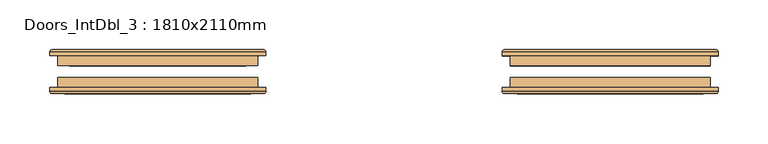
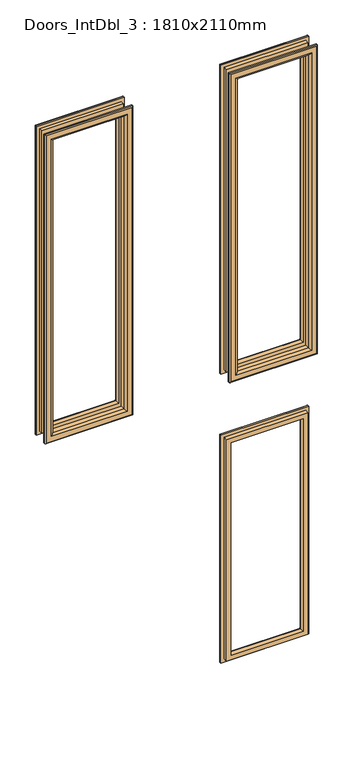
"""IFC4 building model written with IfcOpenShell, lengths in millimetres: door geometry, Doors_IntDbl_3 : 1810x2110mm."""

from ifc_helpers import new_model, si_unit, frame, origin, place, context, project, spatial, ellipse_curve, source, transform, mapped, element, save
from ifc_brep_helpers import plane_surface, cylinder_surface, advanced_brep


def doors_intdbl_3_1810x2110mm_1437e5d7(model_context):
    return source(origin(), model_context, "Body", "AdvancedBrep", [
        advanced_brep(
        [(118.5, 79.0, 342.0), (118.5, 75.0, 342.0), (118.5, 75.0, 933.0), (118.5, 79.0, 933.0), (120.5, 81.0, 344.0), (120.5, 81.0, 931.0), (138.5, 76.0, 362.0), (133.5, 81.0, 357.0), (133.5, 81.0, 918.0), (138.5, 76.0, 913.0), (138.5, 65.0, 362.0), (138.5, 65.0, 913.0), (126.5, 75.0, 350.0), (126.5, 65.0, 350.0), (126.5, 65.0, 925.0), (126.5, 75.0, 925.0), (334.5, 75.0, 933.0), (334.5, 79.0, 933.0), (332.5, 81.0, 931.0), (319.5, 81.0, 918.0), (314.5, 76.0, 913.0), (314.5, 65.0, 913.0), (326.5, 65.0, 925.0), (326.5, 75.0, 925.0), (334.5, 75.0, 342.0), (334.5, 79.0, 342.0), (332.5, 81.0, 344.0), (319.5, 81.0, 357.0), (314.5, 76.0, 362.0), (314.5, 65.0, 362.0), (326.5, 65.0, 350.0), (326.5, 75.0, 350.0)],
        [
            (0, 1),
            (1, 2),
            (2, 3),
            (3, 0),
            (4, 0, ellipse_curve(frame((120.5, 79.0, 344.0), z_axis=(-0.7071067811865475, 0.0, 0.7071067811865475), x_axis=(-0.7071067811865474, 0.0, -0.7071067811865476)), 2.8284271, 2.0)),
            (3, 5, ellipse_curve(frame((120.5, 79.0, 931.0), z_axis=(-0.7071067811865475, 0.0, -0.7071067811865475), x_axis=(0.7071067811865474, 0.0, -0.7071067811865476)), 2.8284271, 2.0)),
            (5, 4),
            (6, 7, ellipse_curve(frame((133.5, 76.0, 357.0), z_axis=(-0.7071067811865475, 0.0, 0.7071067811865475), x_axis=(-0.7071067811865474, 0.0, -0.7071067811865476)), 7.0710678, 5.0)),
            (7, 8),
            (8, 9, ellipse_curve(frame((133.5, 76.0, 918.0), z_axis=(-0.7071067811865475, 0.0, -0.7071067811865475), x_axis=(0.7071067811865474, 0.0, -0.7071067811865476)), 7.0710678, 5.0)),
            (9, 6),
            (10, 6),
            (9, 11),
            (11, 10),
            (12, 13),
            (13, 14),
            (14, 15),
            (15, 12),
            (2, 16),
            (16, 17),
            (17, 3),
            (17, 18, ellipse_curve(frame((332.5, 79.0, 931.0), z_axis=(-0.7071067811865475, 0.0, 0.7071067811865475), x_axis=(-0.7071067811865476, 0.0, -0.7071067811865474)), 2.8284271, 2.0)),
            (18, 5),
            (8, 19),
            (19, 20, ellipse_curve(frame((319.5, 76.0, 918.0), z_axis=(-0.7071067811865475, 0.0, 0.7071067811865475), x_axis=(-0.7071067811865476, 0.0, -0.7071067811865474)), 7.0710678, 5.0)),
            (20, 9),
            (20, 21),
            (21, 11),
            (14, 22),
            (22, 23),
            (23, 15),
            (16, 24),
            (24, 25),
            (25, 17),
            (25, 26, ellipse_curve(frame((332.5, 79.0, 344.0), z_axis=(0.7071067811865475, 0.0, 0.7071067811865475), x_axis=(-0.7071067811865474, 0.0, 0.7071067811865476)), 2.8284271, 2.0)),
            (26, 18),
            (19, 27),
            (27, 28, ellipse_curve(frame((319.5, 76.0, 357.0), z_axis=(0.7071067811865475, 0.0, 0.7071067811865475), x_axis=(-0.7071067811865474, 0.0, 0.7071067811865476)), 7.0710678, 5.0)),
            (28, 20),
            (28, 29),
            (29, 21),
            (22, 30),
            (30, 31),
            (31, 23),
            (24, 1),
            (0, 25),
            (4, 26),
            (7, 27),
            (6, 28),
            (10, 29),
            (13, 30),
            (12, 31),
        ],
        [
            plane_surface(frame((118.5, 75.0, 342.0), z_axis=(-1.0, 0.0, 0.0), x_axis=(0.0, 0.0, 1.0))),
            cylinder_surface(frame((120.5, 79.0, 350.0), z_axis=(0.0, 0.0, -1.0), x_axis=(-1.0, 0.0, 0.0)), 2.0),
            cylinder_surface(frame((133.5, 76.0, 350.0), z_axis=(0.0, 0.0, -1.0), x_axis=(-1.0, 0.0, 0.0)), 5.0),
            plane_surface(frame((138.5, 76.0, 362.0), z_axis=(1.0, 0.0, 0.0), x_axis=(0.0, 0.0, 1.0))),
            plane_surface(frame((126.5, 65.0, 350.0), z_axis=(-1.0, 0.0, 0.0), x_axis=(0.0, 0.0, 1.0))),
            plane_surface(frame((118.5, 75.0, 933.0), z_axis=(0.0, 0.0, 1.0), x_axis=(1.0, 0.0, 0.0))),
            cylinder_surface(frame((126.5, 79.0, 931.0), z_axis=(-1.0, 0.0, 0.0), x_axis=(0.0, 0.0, 1.0)), 2.0),
            cylinder_surface(frame((126.5, 76.0, 918.0), z_axis=(-1.0, 0.0, 0.0), x_axis=(0.0, 0.0, 1.0)), 5.0),
            plane_surface(frame((138.5, 76.0, 913.0), z_axis=(0.0, 0.0, -1.0), x_axis=(1.0, 0.0, 0.0))),
            plane_surface(frame((126.5, 65.0, 925.0), z_axis=(0.0, 0.0, 1.0), x_axis=(1.0, 0.0, 0.0))),
            plane_surface(frame((334.5, 75.0, 933.0), z_axis=(1.0, 0.0, 0.0), x_axis=(0.0, 0.0, -1.0))),
            cylinder_surface(frame((332.5, 79.0, 925.0), z_axis=(0.0, 0.0, 1.0), x_axis=(1.0, 0.0, 0.0)), 2.0),
            cylinder_surface(frame((319.5, 76.0, 925.0), z_axis=(0.0, 0.0, 1.0), x_axis=(1.0, 0.0, 0.0)), 5.0),
            plane_surface(frame((314.5, 76.0, 913.0), z_axis=(-1.0, 0.0, 0.0), x_axis=(0.0, 0.0, -1.0))),
            plane_surface(frame((326.5, 65.0, 925.0), z_axis=(1.0, 0.0, 0.0), x_axis=(0.0, 0.0, -1.0))),
            plane_surface(frame((334.5, 75.0, 342.0), z_axis=(0.0, 0.0, -1.0), x_axis=(-1.0, 0.0, 0.0))),
            cylinder_surface(frame((326.5, 79.0, 344.0), z_axis=(1.0, 0.0, 0.0), x_axis=(0.0, 0.0, -1.0)), 2.0),
            plane_surface(frame((332.5, 81.0, 344.0), z_axis=(0.0, 1.0, 0.0), x_axis=(-1.0, 0.0, 0.0))),
            cylinder_surface(frame((326.5, 76.0, 357.0), z_axis=(1.0, 0.0, 0.0), x_axis=(0.0, 0.0, -1.0)), 5.0),
            plane_surface(frame((314.5, 76.0, 362.0), z_axis=(0.0, 0.0, 1.0), x_axis=(-1.0, 0.0, 0.0))),
            plane_surface(frame((314.5, 65.0, 362.0), z_axis=(0.0, -1.0, 0.0), x_axis=(-1.0, 0.0, 0.0))),
            plane_surface(frame((326.5, 65.0, 350.0), z_axis=(0.0, 0.0, -1.0), x_axis=(-1.0, 0.0, 0.0))),
            plane_surface(frame((326.5, 75.0, 350.0), z_axis=(0.0, -1.0, 0.0), x_axis=(-1.0, 0.0, 0.0))),
        ],
        [
            (0, [[1, 2, 3, 4]]),
            (1, [[5, -4, 6, 7]]),
            (2, [[8, 9, 10, 11]]),
            (3, [[12, -11, 13, 14]]),
            (4, [[15, 16, 17, 18]]),
            (5, [[-3, 19, 20, 21]]),
            (6, [[-6, -21, 22, 23]]),
            (7, [[-10, 24, 25, 26]]),
            (8, [[-13, -26, 27, 28]]),
            (9, [[-17, 29, 30, 31]]),
            (10, [[-20, 32, 33, 34]]),
            (11, [[-22, -34, 35, 36]]),
            (12, [[-25, 37, 38, 39]]),
            (13, [[-27, -39, 40, 41]]),
            (14, [[-30, 42, 43, 44]]),
            (15, [[-33, 45, -1, 46]]),
            (16, [[-35, -46, -5, 47]]),
            (17, [[-23, -36, -47, -7], [48, -37, -24, -9]]),
            (18, [[-38, -48, -8, 49]]),
            (19, [[-40, -49, -12, 50]]),
            (20, [[51, -42, -29, -16], [-28, -41, -50, -14]]),
            (21, [[-43, -51, -15, 52]]),
            (22, [[-45, -32, -19, -2], [-31, -44, -52, -18]]),
        ],
    ),
        advanced_brep(
        [(326.5, 53.0, 1885.0), (326.5, 43.0, 1885.0), (326.5, 43.0, 1100.0), (326.5, 53.0, 1100.0), (314.5, 42.0, 1873.0), (314.5, 53.0, 1873.0), (314.5, 53.0, 1112.0), (314.5, 42.0, 1112.0), (319.5, 37.0, 1878.0), (319.5, 37.0, 1107.0), (334.5, 39.0, 1893.0), (332.5, 37.0, 1891.0), (332.5, 37.0, 1094.0), (334.5, 39.0, 1092.0), (334.5, 43.0, 1893.0), (334.5, 43.0, 1092.0), (126.5, 43.0, 1100.0), (126.5, 53.0, 1100.0), (138.5, 53.0, 1112.0), (138.5, 42.0, 1112.0), (133.5, 37.0, 1107.0), (120.5, 37.0, 1094.0), (118.5, 39.0, 1092.0), (118.5, 43.0, 1092.0), (126.5, 43.0, 1885.0), (126.5, 53.0, 1885.0), (138.5, 53.0, 1873.0), (138.5, 42.0, 1873.0), (133.5, 37.0, 1878.0), (120.5, 37.0, 1891.0), (118.5, 39.0, 1893.0), (118.5, 43.0, 1893.0)],
        [
            (0, 1),
            (1, 2),
            (2, 3),
            (3, 0),
            (4, 5),
            (5, 6),
            (6, 7),
            (7, 4),
            (8, 4, ellipse_curve(frame((319.5, 42.0, 1878.0), z_axis=(0.7071067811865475, 0.0, -0.7071067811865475), x_axis=(0.7071067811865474, 0.0, 0.7071067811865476)), 7.0710678, 5.0)),
            (7, 9, ellipse_curve(frame((319.5, 42.0, 1107.0), z_axis=(0.7071067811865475, 0.0, 0.7071067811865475), x_axis=(-0.7071067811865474, 0.0, 0.7071067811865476)), 7.0710678, 5.0)),
            (9, 8),
            (10, 11, ellipse_curve(frame((332.5, 39.0, 1891.0), z_axis=(0.7071067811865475, 0.0, -0.7071067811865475), x_axis=(0.7071067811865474, 0.0, 0.7071067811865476)), 2.8284271, 2.0)),
            (11, 12),
            (12, 13, ellipse_curve(frame((332.5, 39.0, 1094.0), z_axis=(0.7071067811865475, 0.0, 0.7071067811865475), x_axis=(-0.7071067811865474, 0.0, 0.7071067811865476)), 2.8284271, 2.0)),
            (13, 10),
            (14, 10),
            (13, 15),
            (15, 14),
            (2, 16),
            (16, 17),
            (17, 3),
            (6, 18),
            (18, 19),
            (19, 7),
            (19, 20, ellipse_curve(frame((133.5, 42.0, 1107.0), z_axis=(0.7071067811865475, 0.0, -0.7071067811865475), x_axis=(0.7071067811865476, 0.0, 0.7071067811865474)), 7.0710678, 5.0)),
            (20, 9),
            (12, 21),
            (21, 22, ellipse_curve(frame((120.5, 39.0, 1094.0), z_axis=(0.7071067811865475, 0.0, -0.7071067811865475), x_axis=(0.7071067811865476, 0.0, 0.7071067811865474)), 2.8284271, 2.0)),
            (22, 13),
            (22, 23),
            (23, 15),
            (16, 24),
            (24, 25),
            (25, 17),
            (18, 26),
            (26, 27),
            (27, 19),
            (27, 28, ellipse_curve(frame((133.5, 42.0, 1878.0), z_axis=(-0.7071067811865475, 0.0, -0.7071067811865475), x_axis=(0.7071067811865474, 0.0, -0.7071067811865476)), 7.0710678, 5.0)),
            (28, 20),
            (21, 29),
            (29, 30, ellipse_curve(frame((120.5, 39.0, 1891.0), z_axis=(-0.7071067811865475, 0.0, -0.7071067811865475), x_axis=(0.7071067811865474, 0.0, -0.7071067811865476)), 2.8284271, 2.0)),
            (30, 22),
            (30, 31),
            (31, 23),
            (31, 14),
            (1, 24),
            (0, 25),
            (5, 26),
            (4, 27),
            (8, 28),
            (11, 29),
            (10, 30),
        ],
        [
            plane_surface(frame((326.5, 43.0, 1885.0), z_axis=(1.0, 0.0, 0.0), x_axis=(0.0, 0.0, -1.0))),
            plane_surface(frame((314.5, 53.0, 1873.0), z_axis=(-1.0, 0.0, 0.0), x_axis=(0.0, 0.0, -1.0))),
            cylinder_surface(frame((319.5, 42.0, 1885.0), z_axis=(0.0, 0.0, 1.0), x_axis=(1.0, 0.0, 0.0)), 5.0),
            cylinder_surface(frame((332.5, 39.0, 1885.0), z_axis=(0.0, 0.0, 1.0), x_axis=(1.0, 0.0, 0.0)), 2.0),
            plane_surface(frame((334.5, 39.0, 1893.0), z_axis=(1.0, 0.0, 0.0), x_axis=(0.0, 0.0, -1.0))),
            plane_surface(frame((326.5, 43.0, 1100.0), z_axis=(0.0, 0.0, -1.0), x_axis=(-1.0, 0.0, 0.0))),
            plane_surface(frame((314.5, 53.0, 1112.0), z_axis=(0.0, 0.0, 1.0), x_axis=(-1.0, 0.0, 0.0))),
            cylinder_surface(frame((326.5, 42.0, 1107.0), z_axis=(1.0, 0.0, 0.0), x_axis=(0.0, 0.0, -1.0)), 5.0),
            cylinder_surface(frame((326.5, 39.0, 1094.0), z_axis=(1.0, 0.0, 0.0), x_axis=(0.0, 0.0, -1.0)), 2.0),
            plane_surface(frame((334.5, 39.0, 1092.0), z_axis=(0.0, 0.0, -1.0), x_axis=(-1.0, 0.0, 0.0))),
            plane_surface(frame((126.5, 43.0, 1100.0), z_axis=(-1.0, 0.0, 0.0), x_axis=(0.0, 0.0, 1.0))),
            plane_surface(frame((138.5, 53.0, 1112.0), z_axis=(1.0, 0.0, 0.0), x_axis=(0.0, 0.0, 1.0))),
            cylinder_surface(frame((133.5, 42.0, 1100.0), z_axis=(0.0, 0.0, -1.0), x_axis=(-1.0, 0.0, 0.0)), 5.0),
            cylinder_surface(frame((120.5, 39.0, 1100.0), z_axis=(0.0, 0.0, -1.0), x_axis=(-1.0, 0.0, 0.0)), 2.0),
            plane_surface(frame((118.5, 39.0, 1092.0), z_axis=(-1.0, 0.0, 0.0), x_axis=(0.0, 0.0, 1.0))),
            plane_surface(frame((118.5, 43.0, 1893.0), z_axis=(0.0, 1.0, 0.0), x_axis=(1.0, 0.0, 0.0))),
            plane_surface(frame((126.5, 43.0, 1885.0), z_axis=(0.0, 0.0, 1.0), x_axis=(1.0, 0.0, 0.0))),
            plane_surface(frame((126.5, 53.0, 1885.0), z_axis=(0.0, 1.0, 0.0), x_axis=(1.0, 0.0, 0.0))),
            plane_surface(frame((138.5, 53.0, 1873.0), z_axis=(0.0, 0.0, -1.0), x_axis=(1.0, 0.0, 0.0))),
            cylinder_surface(frame((126.5, 42.0, 1878.0), z_axis=(-1.0, 0.0, 0.0), x_axis=(0.0, 0.0, 1.0)), 5.0),
            plane_surface(frame((133.5, 37.0, 1878.0), z_axis=(0.0, -1.0, 0.0), x_axis=(1.0, 0.0, 0.0))),
            cylinder_surface(frame((126.5, 39.0, 1891.0), z_axis=(-1.0, 0.0, 0.0), x_axis=(0.0, 0.0, 1.0)), 2.0),
            plane_surface(frame((118.5, 39.0, 1893.0), z_axis=(0.0, 0.0, 1.0), x_axis=(1.0, 0.0, 0.0))),
        ],
        [
            (0, [[1, 2, 3, 4]]),
            (1, [[5, 6, 7, 8]]),
            (2, [[9, -8, 10, 11]]),
            (3, [[12, 13, 14, 15]]),
            (4, [[16, -15, 17, 18]]),
            (5, [[-3, 19, 20, 21]]),
            (6, [[-7, 22, 23, 24]]),
            (7, [[-10, -24, 25, 26]]),
            (8, [[-14, 27, 28, 29]]),
            (9, [[-17, -29, 30, 31]]),
            (10, [[-20, 32, 33, 34]]),
            (11, [[-23, 35, 36, 37]]),
            (12, [[-25, -37, 38, 39]]),
            (13, [[-28, 40, 41, 42]]),
            (14, [[-30, -42, 43, 44]]),
            (15, [[-31, -44, 45, -18], [46, -32, -19, -2]]),
            (16, [[-33, -46, -1, 47]]),
            (17, [[-21, -34, -47, -4], [48, -35, -22, -6]]),
            (18, [[-36, -48, -5, 49]]),
            (19, [[-38, -49, -9, 50]]),
            (20, [[51, -40, -27, -13], [-26, -39, -50, -11]]),
            (21, [[-41, -51, -12, 52]]),
            (22, [[-43, -52, -16, -45]]),
        ],
    ),
        advanced_brep(
        [(-326.5, 53.0, 1100.0), (-326.5, 43.0, 1100.0), (-326.5, 43.0, 1885.0), (-326.5, 53.0, 1885.0), (-314.5, 42.0, 1112.0), (-314.5, 53.0, 1112.0), (-314.5, 53.0, 1873.0), (-314.5, 42.0, 1873.0), (-319.5, 37.0, 1107.0), (-319.5, 37.0, 1878.0), (-334.5, 39.0, 1092.0), (-332.5, 37.0, 1094.0), (-332.5, 37.0, 1891.0), (-334.5, 39.0, 1893.0), (-334.5, 43.0, 1092.0), (-334.5, 43.0, 1893.0), (-126.5, 43.0, 1885.0), (-126.5, 53.0, 1885.0), (-138.5, 53.0, 1873.0), (-138.5, 42.0, 1873.0), (-133.5, 37.0, 1878.0), (-120.5, 37.0, 1891.0), (-118.5, 39.0, 1893.0), (-118.5, 43.0, 1893.0), (-126.5, 43.0, 1100.0), (-126.5, 53.0, 1100.0), (-138.5, 53.0, 1112.0), (-138.5, 42.0, 1112.0), (-133.5, 37.0, 1107.0), (-120.5, 37.0, 1094.0), (-118.5, 39.0, 1092.0), (-118.5, 43.0, 1092.0)],
        [
            (0, 1),
            (1, 2),
            (2, 3),
            (3, 0),
            (4, 5),
            (5, 6),
            (6, 7),
            (7, 4),
            (8, 4, ellipse_curve(frame((-319.5, 42.0, 1107.0), z_axis=(-0.7071067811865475, 0.0, 0.7071067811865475), x_axis=(-0.7071067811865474, 0.0, -0.7071067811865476)), 7.0710678, 5.0)),
            (7, 9, ellipse_curve(frame((-319.5, 42.0, 1878.0), z_axis=(-0.7071067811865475, 0.0, -0.7071067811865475), x_axis=(0.7071067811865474, 0.0, -0.7071067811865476)), 7.0710678, 5.0)),
            (9, 8),
            (10, 11, ellipse_curve(frame((-332.5, 39.0, 1094.0), z_axis=(-0.7071067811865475, 0.0, 0.7071067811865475), x_axis=(-0.7071067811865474, 0.0, -0.7071067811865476)), 2.8284271, 2.0)),
            (11, 12),
            (12, 13, ellipse_curve(frame((-332.5, 39.0, 1891.0), z_axis=(-0.7071067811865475, 0.0, -0.7071067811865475), x_axis=(0.7071067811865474, 0.0, -0.7071067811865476)), 2.8284271, 2.0)),
            (13, 10),
            (14, 10),
            (13, 15),
            (15, 14),
            (2, 16),
            (16, 17),
            (17, 3),
            (6, 18),
            (18, 19),
            (19, 7),
            (19, 20, ellipse_curve(frame((-133.5, 42.0, 1878.0), z_axis=(-0.7071067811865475, 0.0, 0.7071067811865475), x_axis=(-0.7071067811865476, 0.0, -0.7071067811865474)), 7.0710678, 5.0)),
            (20, 9),
            (12, 21),
            (21, 22, ellipse_curve(frame((-120.5, 39.0, 1891.0), z_axis=(-0.7071067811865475, 0.0, 0.7071067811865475), x_axis=(-0.7071067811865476, 0.0, -0.7071067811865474)), 2.8284271, 2.0)),
            (22, 13),
            (22, 23),
            (23, 15),
            (16, 24),
            (24, 25),
            (25, 17),
            (18, 26),
            (26, 27),
            (27, 19),
            (27, 28, ellipse_curve(frame((-133.5, 42.0, 1107.0), z_axis=(0.7071067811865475, 0.0, 0.7071067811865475), x_axis=(-0.7071067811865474, 0.0, 0.7071067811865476)), 7.0710678, 5.0)),
            (28, 20),
            (21, 29),
            (29, 30, ellipse_curve(frame((-120.5, 39.0, 1094.0), z_axis=(0.7071067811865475, 0.0, 0.7071067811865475), x_axis=(-0.7071067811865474, 0.0, 0.7071067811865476)), 2.8284271, 2.0)),
            (30, 22),
            (30, 31),
            (31, 23),
            (31, 14),
            (1, 24),
            (0, 25),
            (5, 26),
            (4, 27),
            (8, 28),
            (11, 29),
            (10, 30),
        ],
        [
            plane_surface(frame((-326.5, 43.0, 1100.0), z_axis=(-1.0, 0.0, 0.0), x_axis=(0.0, 0.0, 1.0))),
            plane_surface(frame((-314.5, 53.0, 1112.0), z_axis=(1.0, 0.0, 0.0), x_axis=(0.0, 0.0, 1.0))),
            cylinder_surface(frame((-319.5, 42.0, 1100.0), z_axis=(0.0, 0.0, -1.0), x_axis=(-1.0, 0.0, 0.0)), 5.0),
            cylinder_surface(frame((-332.5, 39.0, 1100.0), z_axis=(0.0, 0.0, -1.0), x_axis=(-1.0, 0.0, 0.0)), 2.0),
            plane_surface(frame((-334.5, 39.0, 1092.0), z_axis=(-1.0, 0.0, 0.0), x_axis=(0.0, 0.0, 1.0))),
            plane_surface(frame((-326.5, 43.0, 1885.0), z_axis=(0.0, 0.0, 1.0), x_axis=(1.0, 0.0, 0.0))),
            plane_surface(frame((-314.5, 53.0, 1873.0), z_axis=(0.0, 0.0, -1.0), x_axis=(1.0, 0.0, 0.0))),
            cylinder_surface(frame((-326.5, 42.0, 1878.0), z_axis=(-1.0, 0.0, 0.0), x_axis=(0.0, 0.0, 1.0)), 5.0),
            cylinder_surface(frame((-326.5, 39.0, 1891.0), z_axis=(-1.0, 0.0, 0.0), x_axis=(0.0, 0.0, 1.0)), 2.0),
            plane_surface(frame((-334.5, 39.0, 1893.0), z_axis=(0.0, 0.0, 1.0), x_axis=(1.0, 0.0, 0.0))),
            plane_surface(frame((-126.5, 43.0, 1885.0), z_axis=(1.0, 0.0, 0.0), x_axis=(0.0, 0.0, -1.0))),
            plane_surface(frame((-138.5, 53.0, 1873.0), z_axis=(-1.0, 0.0, 0.0), x_axis=(0.0, 0.0, -1.0))),
            cylinder_surface(frame((-133.5, 42.0, 1885.0), z_axis=(0.0, 0.0, 1.0), x_axis=(1.0, 0.0, 0.0)), 5.0),
            cylinder_surface(frame((-120.5, 39.0, 1885.0), z_axis=(0.0, 0.0, 1.0), x_axis=(1.0, 0.0, 0.0)), 2.0),
            plane_surface(frame((-118.5, 39.0, 1893.0), z_axis=(1.0, 0.0, 0.0), x_axis=(0.0, 0.0, -1.0))),
            plane_surface(frame((-118.5, 43.0, 1092.0), z_axis=(0.0, 1.0, 0.0), x_axis=(-1.0, 0.0, 0.0))),
            plane_surface(frame((-126.5, 43.0, 1100.0), z_axis=(0.0, 0.0, -1.0), x_axis=(-1.0, 0.0, 0.0))),
            plane_surface(frame((-126.5, 53.0, 1100.0), z_axis=(0.0, 1.0, 0.0), x_axis=(-1.0, 0.0, 0.0))),
            plane_surface(frame((-138.5, 53.0, 1112.0), z_axis=(0.0, 0.0, 1.0), x_axis=(-1.0, 0.0, 0.0))),
            cylinder_surface(frame((-126.5, 42.0, 1107.0), z_axis=(1.0, 0.0, 0.0), x_axis=(0.0, 0.0, -1.0)), 5.0),
            plane_surface(frame((-133.5, 37.0, 1107.0), z_axis=(0.0, -1.0, 0.0), x_axis=(-1.0, 0.0, 0.0))),
            cylinder_surface(frame((-126.5, 39.0, 1094.0), z_axis=(1.0, 0.0, 0.0), x_axis=(0.0, 0.0, -1.0)), 2.0),
            plane_surface(frame((-118.5, 39.0, 1092.0), z_axis=(0.0, 0.0, -1.0), x_axis=(-1.0, 0.0, 0.0))),
        ],
        [
            (0, [[1, 2, 3, 4]]),
            (1, [[5, 6, 7, 8]]),
            (2, [[9, -8, 10, 11]]),
            (3, [[12, 13, 14, 15]]),
            (4, [[16, -15, 17, 18]]),
            (5, [[-3, 19, 20, 21]]),
            (6, [[-7, 22, 23, 24]]),
            (7, [[-10, -24, 25, 26]]),
            (8, [[-14, 27, 28, 29]]),
            (9, [[-17, -29, 30, 31]]),
            (10, [[-20, 32, 33, 34]]),
            (11, [[-23, 35, 36, 37]]),
            (12, [[-25, -37, 38, 39]]),
            (13, [[-28, 40, 41, 42]]),
            (14, [[-30, -42, 43, 44]]),
            (15, [[-31, -44, 45, -18], [46, -32, -19, -2]]),
            (16, [[-33, -46, -1, 47]]),
            (17, [[-21, -34, -47, -4], [48, -35, -22, -6]]),
            (18, [[-36, -48, -5, 49]]),
            (19, [[-38, -49, -9, 50]]),
            (20, [[51, -40, -27, -13], [-26, -39, -50, -11]]),
            (21, [[-41, -51, -12, 52]]),
            (22, [[-43, -52, -16, -45]]),
        ],
    ),
        advanced_brep(
        [(326.5, 65.0, 1100.0), (326.5, 75.0, 1100.0), (326.5, 75.0, 1885.0), (326.5, 65.0, 1885.0), (314.5, 76.0, 1112.0), (314.5, 65.0, 1112.0), (314.5, 65.0, 1873.0), (314.5, 76.0, 1873.0), (319.5, 81.0, 1107.0), (319.5, 81.0, 1878.0), (334.5, 79.0, 1092.0), (332.5, 81.0, 1094.0), (332.5, 81.0, 1891.0), (334.5, 79.0, 1893.0), (334.5, 75.0, 1092.0), (334.5, 75.0, 1893.0), (126.5, 75.0, 1885.0), (126.5, 65.0, 1885.0), (138.5, 65.0, 1873.0), (138.5, 76.0, 1873.0), (133.5, 81.0, 1878.0), (120.5, 81.0, 1891.0), (118.5, 79.0, 1893.0), (118.5, 75.0, 1893.0), (126.5, 75.0, 1100.0), (126.5, 65.0, 1100.0), (138.5, 65.0, 1112.0), (138.5, 76.0, 1112.0), (133.5, 81.0, 1107.0), (120.5, 81.0, 1094.0), (118.5, 79.0, 1092.0), (118.5, 75.0, 1092.0)],
        [
            (0, 1),
            (1, 2),
            (2, 3),
            (3, 0),
            (4, 5),
            (5, 6),
            (6, 7),
            (7, 4),
            (8, 4, ellipse_curve(frame((319.5, 76.0, 1107.0), z_axis=(0.7071067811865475, 0.0, 0.7071067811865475), x_axis=(0.7071067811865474, 0.0, -0.7071067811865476)), 7.0710678, 5.0)),
            (7, 9, ellipse_curve(frame((319.5, 76.0, 1878.0), z_axis=(0.7071067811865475, 0.0, -0.7071067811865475), x_axis=(-0.7071067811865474, 0.0, -0.7071067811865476)), 7.0710678, 5.0)),
            (9, 8),
            (10, 11, ellipse_curve(frame((332.5, 79.0, 1094.0), z_axis=(0.7071067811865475, 0.0, 0.7071067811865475), x_axis=(0.7071067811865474, 0.0, -0.7071067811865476)), 2.8284271, 2.0)),
            (11, 12),
            (12, 13, ellipse_curve(frame((332.5, 79.0, 1891.0), z_axis=(0.7071067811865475, 0.0, -0.7071067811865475), x_axis=(-0.7071067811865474, 0.0, -0.7071067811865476)), 2.8284271, 2.0)),
            (13, 10),
            (14, 10),
            (13, 15),
            (15, 14),
            (2, 16),
            (16, 17),
            (17, 3),
            (6, 18),
            (18, 19),
            (19, 7),
            (19, 20, ellipse_curve(frame((133.5, 76.0, 1878.0), z_axis=(0.7071067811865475, 0.0, 0.7071067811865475), x_axis=(0.7071067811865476, 0.0, -0.7071067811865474)), 7.0710678, 5.0)),
            (20, 9),
            (12, 21),
            (21, 22, ellipse_curve(frame((120.5, 79.0, 1891.0), z_axis=(0.7071067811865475, 0.0, 0.7071067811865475), x_axis=(0.7071067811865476, 0.0, -0.7071067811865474)), 2.8284271, 2.0)),
            (22, 13),
            (22, 23),
            (23, 15),
            (16, 24),
            (24, 25),
            (25, 17),
            (18, 26),
            (26, 27),
            (27, 19),
            (27, 28, ellipse_curve(frame((133.5, 76.0, 1107.0), z_axis=(-0.7071067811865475, 0.0, 0.7071067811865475), x_axis=(0.7071067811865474, 0.0, 0.7071067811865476)), 7.0710678, 5.0)),
            (28, 20),
            (21, 29),
            (29, 30, ellipse_curve(frame((120.5, 79.0, 1094.0), z_axis=(-0.7071067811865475, 0.0, 0.7071067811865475), x_axis=(0.7071067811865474, 0.0, 0.7071067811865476)), 2.8284271, 2.0)),
            (30, 22),
            (30, 31),
            (31, 23),
            (31, 14),
            (1, 24),
            (0, 25),
            (5, 26),
            (4, 27),
            (8, 28),
            (11, 29),
            (10, 30),
        ],
        [
            plane_surface(frame((326.5, 75.0, 1100.0), z_axis=(1.0, 0.0, 0.0), x_axis=(0.0, 0.0, 1.0))),
            plane_surface(frame((314.5, 65.0, 1112.0), z_axis=(-1.0, 0.0, 0.0), x_axis=(0.0, 0.0, 1.0))),
            cylinder_surface(frame((319.5, 76.0, 1100.0), z_axis=(0.0, 0.0, -1.0), x_axis=(1.0, 0.0, 0.0)), 5.0),
            cylinder_surface(frame((332.5, 79.0, 1100.0), z_axis=(0.0, 0.0, -1.0), x_axis=(1.0, 0.0, 0.0)), 2.0),
            plane_surface(frame((334.5, 79.0, 1092.0), z_axis=(1.0, 0.0, 0.0), x_axis=(0.0, 0.0, 1.0))),
            plane_surface(frame((326.5, 75.0, 1885.0), z_axis=(0.0, 0.0, 1.0), x_axis=(-1.0, 0.0, 0.0))),
            plane_surface(frame((314.5, 65.0, 1873.0), z_axis=(0.0, 0.0, -1.0), x_axis=(-1.0, 0.0, 0.0))),
            cylinder_surface(frame((326.5, 76.0, 1878.0), z_axis=(1.0, 0.0, 0.0), x_axis=(0.0, 0.0, 1.0)), 5.0),
            cylinder_surface(frame((326.5, 79.0, 1891.0), z_axis=(1.0, 0.0, 0.0), x_axis=(0.0, 0.0, 1.0)), 2.0),
            plane_surface(frame((334.5, 79.0, 1893.0), z_axis=(0.0, 0.0, 1.0), x_axis=(-1.0, 0.0, 0.0))),
            plane_surface(frame((126.5, 75.0, 1885.0), z_axis=(-1.0, 0.0, 0.0), x_axis=(0.0, 0.0, -1.0))),
            plane_surface(frame((138.5, 65.0, 1873.0), z_axis=(1.0, 0.0, 0.0), x_axis=(0.0, 0.0, -1.0))),
            cylinder_surface(frame((133.5, 76.0, 1885.0), z_axis=(0.0, 0.0, 1.0), x_axis=(-1.0, 0.0, 0.0)), 5.0),
            cylinder_surface(frame((120.5, 79.0, 1885.0), z_axis=(0.0, 0.0, 1.0), x_axis=(-1.0, 0.0, 0.0)), 2.0),
            plane_surface(frame((118.5, 79.0, 1893.0), z_axis=(-1.0, 0.0, 0.0), x_axis=(0.0, 0.0, -1.0))),
            plane_surface(frame((118.5, 75.0, 1092.0), z_axis=(0.0, -1.0, 0.0), x_axis=(1.0, 0.0, 0.0))),
            plane_surface(frame((126.5, 75.0, 1100.0), z_axis=(0.0, 0.0, -1.0), x_axis=(1.0, 0.0, 0.0))),
            plane_surface(frame((126.5, 65.0, 1100.0), z_axis=(0.0, -1.0, 0.0), x_axis=(1.0, 0.0, 0.0))),
            plane_surface(frame((138.5, 65.0, 1112.0), z_axis=(0.0, 0.0, 1.0), x_axis=(1.0, 0.0, 0.0))),
            cylinder_surface(frame((126.5, 76.0, 1107.0), z_axis=(-1.0, 0.0, 0.0), x_axis=(0.0, 0.0, -1.0)), 5.0),
            plane_surface(frame((133.5, 81.0, 1107.0), z_axis=(0.0, 1.0, 0.0), x_axis=(1.0, 0.0, 0.0))),
            cylinder_surface(frame((126.5, 79.0, 1094.0), z_axis=(-1.0, 0.0, 0.0), x_axis=(0.0, 0.0, -1.0)), 2.0),
            plane_surface(frame((118.5, 79.0, 1092.0), z_axis=(0.0, 0.0, -1.0), x_axis=(1.0, 0.0, 0.0))),
        ],
        [
            (0, [[1, 2, 3, 4]]),
            (1, [[5, 6, 7, 8]]),
            (2, [[9, -8, 10, 11]]),
            (3, [[12, 13, 14, 15]]),
            (4, [[16, -15, 17, 18]]),
            (5, [[-3, 19, 20, 21]]),
            (6, [[-7, 22, 23, 24]]),
            (7, [[-10, -24, 25, 26]]),
            (8, [[-14, 27, 28, 29]]),
            (9, [[-17, -29, 30, 31]]),
            (10, [[-20, 32, 33, 34]]),
            (11, [[-23, 35, 36, 37]]),
            (12, [[-25, -37, 38, 39]]),
            (13, [[-28, 40, 41, 42]]),
            (14, [[-30, -42, 43, 44]]),
            (15, [[-31, -44, 45, -18], [46, -32, -19, -2]]),
            (16, [[-33, -46, -1, 47]]),
            (17, [[-21, -34, -47, -4], [48, -35, -22, -6]]),
            (18, [[-36, -48, -5, 49]]),
            (19, [[-38, -49, -9, 50]]),
            (20, [[51, -40, -27, -13], [-26, -39, -50, -11]]),
            (21, [[-41, -51, -12, 52]]),
            (22, [[-43, -52, -16, -45]]),
        ],
    ),
        advanced_brep(
        [(-326.5, 65.0, 1885.0), (-326.5, 75.0, 1885.0), (-326.5, 75.0, 1100.0), (-326.5, 65.0, 1100.0), (-314.5, 76.0, 1873.0), (-314.5, 65.0, 1873.0), (-314.5, 65.0, 1112.0), (-314.5, 76.0, 1112.0), (-319.5, 81.0, 1878.0), (-319.5, 81.0, 1107.0), (-334.5, 79.0, 1893.0), (-332.5, 81.0, 1891.0), (-332.5, 81.0, 1094.0), (-334.5, 79.0, 1092.0), (-334.5, 75.0, 1893.0), (-334.5, 75.0, 1092.0), (-126.5, 75.0, 1100.0), (-126.5, 65.0, 1100.0), (-138.5, 65.0, 1112.0), (-138.5, 76.0, 1112.0), (-133.5, 81.0, 1107.0), (-120.5, 81.0, 1094.0), (-118.5, 79.0, 1092.0), (-118.5, 75.0, 1092.0), (-126.5, 75.0, 1885.0), (-126.5, 65.0, 1885.0), (-138.5, 65.0, 1873.0), (-138.5, 76.0, 1873.0), (-133.5, 81.0, 1878.0), (-120.5, 81.0, 1891.0), (-118.5, 79.0, 1893.0), (-118.5, 75.0, 1893.0)],
        [
            (0, 1),
            (1, 2),
            (2, 3),
            (3, 0),
            (4, 5),
            (5, 6),
            (6, 7),
            (7, 4),
            (8, 4, ellipse_curve(frame((-319.5, 76.0, 1878.0), z_axis=(-0.7071067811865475, 0.0, -0.7071067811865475), x_axis=(-0.7071067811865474, 0.0, 0.7071067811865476)), 7.0710678, 5.0)),
            (7, 9, ellipse_curve(frame((-319.5, 76.0, 1107.0), z_axis=(-0.7071067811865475, 0.0, 0.7071067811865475), x_axis=(0.7071067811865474, 0.0, 0.7071067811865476)), 7.0710678, 5.0)),
            (9, 8),
            (10, 11, ellipse_curve(frame((-332.5, 79.0, 1891.0), z_axis=(-0.7071067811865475, 0.0, -0.7071067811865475), x_axis=(-0.7071067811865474, 0.0, 0.7071067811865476)), 2.8284271, 2.0)),
            (11, 12),
            (12, 13, ellipse_curve(frame((-332.5, 79.0, 1094.0), z_axis=(-0.7071067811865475, 0.0, 0.7071067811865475), x_axis=(0.7071067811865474, 0.0, 0.7071067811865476)), 2.8284271, 2.0)),
            (13, 10),
            (14, 10),
            (13, 15),
            (15, 14),
            (2, 16),
            (16, 17),
            (17, 3),
            (6, 18),
            (18, 19),
            (19, 7),
            (19, 20, ellipse_curve(frame((-133.5, 76.0, 1107.0), z_axis=(-0.7071067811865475, 0.0, -0.7071067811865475), x_axis=(-0.7071067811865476, 0.0, 0.7071067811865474)), 7.0710678, 5.0)),
            (20, 9),
            (12, 21),
            (21, 22, ellipse_curve(frame((-120.5, 79.0, 1094.0), z_axis=(-0.7071067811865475, 0.0, -0.7071067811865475), x_axis=(-0.7071067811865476, 0.0, 0.7071067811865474)), 2.8284271, 2.0)),
            (22, 13),
            (22, 23),
            (23, 15),
            (16, 24),
            (24, 25),
            (25, 17),
            (18, 26),
            (26, 27),
            (27, 19),
            (27, 28, ellipse_curve(frame((-133.5, 76.0, 1878.0), z_axis=(0.7071067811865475, 0.0, -0.7071067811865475), x_axis=(-0.7071067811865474, 0.0, -0.7071067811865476)), 7.0710678, 5.0)),
            (28, 20),
            (21, 29),
            (29, 30, ellipse_curve(frame((-120.5, 79.0, 1891.0), z_axis=(0.7071067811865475, 0.0, -0.7071067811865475), x_axis=(-0.7071067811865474, 0.0, -0.7071067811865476)), 2.8284271, 2.0)),
            (30, 22),
            (30, 31),
            (31, 23),
            (31, 14),
            (1, 24),
            (0, 25),
            (5, 26),
            (4, 27),
            (8, 28),
            (11, 29),
            (10, 30),
        ],
        [
            plane_surface(frame((-326.5, 75.0, 1885.0), z_axis=(-1.0, 0.0, 0.0), x_axis=(0.0, 0.0, -1.0))),
            plane_surface(frame((-314.5, 65.0, 1873.0), z_axis=(1.0, 0.0, 0.0), x_axis=(0.0, 0.0, -1.0))),
            cylinder_surface(frame((-319.5, 76.0, 1885.0), z_axis=(0.0, 0.0, 1.0), x_axis=(-1.0, 0.0, 0.0)), 5.0),
            cylinder_surface(frame((-332.5, 79.0, 1885.0), z_axis=(0.0, 0.0, 1.0), x_axis=(-1.0, 0.0, 0.0)), 2.0),
            plane_surface(frame((-334.5, 79.0, 1893.0), z_axis=(-1.0, 0.0, 0.0), x_axis=(0.0, 0.0, -1.0))),
            plane_surface(frame((-326.5, 75.0, 1100.0), z_axis=(0.0, 0.0, -1.0), x_axis=(1.0, 0.0, 0.0))),
            plane_surface(frame((-314.5, 65.0, 1112.0), z_axis=(0.0, 0.0, 1.0), x_axis=(1.0, 0.0, 0.0))),
            cylinder_surface(frame((-326.5, 76.0, 1107.0), z_axis=(-1.0, 0.0, 0.0), x_axis=(0.0, 0.0, -1.0)), 5.0),
            cylinder_surface(frame((-326.5, 79.0, 1094.0), z_axis=(-1.0, 0.0, 0.0), x_axis=(0.0, 0.0, -1.0)), 2.0),
            plane_surface(frame((-334.5, 79.0, 1092.0), z_axis=(0.0, 0.0, -1.0), x_axis=(1.0, 0.0, 0.0))),
            plane_surface(frame((-126.5, 75.0, 1100.0), z_axis=(1.0, 0.0, 0.0), x_axis=(0.0, 0.0, 1.0))),
            plane_surface(frame((-138.5, 65.0, 1112.0), z_axis=(-1.0, 0.0, 0.0), x_axis=(0.0, 0.0, 1.0))),
            cylinder_surface(frame((-133.5, 76.0, 1100.0), z_axis=(0.0, 0.0, -1.0), x_axis=(1.0, 0.0, 0.0)), 5.0),
            cylinder_surface(frame((-120.5, 79.0, 1100.0), z_axis=(0.0, 0.0, -1.0), x_axis=(1.0, 0.0, 0.0)), 2.0),
            plane_surface(frame((-118.5, 79.0, 1092.0), z_axis=(1.0, 0.0, 0.0), x_axis=(0.0, 0.0, 1.0))),
            plane_surface(frame((-118.5, 75.0, 1893.0), z_axis=(0.0, -1.0, 0.0), x_axis=(-1.0, 0.0, 0.0))),
            plane_surface(frame((-126.5, 75.0, 1885.0), z_axis=(0.0, 0.0, 1.0), x_axis=(-1.0, 0.0, 0.0))),
            plane_surface(frame((-126.5, 65.0, 1885.0), z_axis=(0.0, -1.0, 0.0), x_axis=(-1.0, 0.0, 0.0))),
            plane_surface(frame((-138.5, 65.0, 1873.0), z_axis=(0.0, 0.0, -1.0), x_axis=(-1.0, 0.0, 0.0))),
            cylinder_surface(frame((-126.5, 76.0, 1878.0), z_axis=(1.0, 0.0, 0.0), x_axis=(0.0, 0.0, 1.0)), 5.0),
            plane_surface(frame((-133.5, 81.0, 1878.0), z_axis=(0.0, 1.0, 0.0), x_axis=(-1.0, 0.0, 0.0))),
            cylinder_surface(frame((-126.5, 79.0, 1891.0), z_axis=(1.0, 0.0, 0.0), x_axis=(0.0, 0.0, 1.0)), 2.0),
            plane_surface(frame((-118.5, 79.0, 1893.0), z_axis=(0.0, 0.0, 1.0), x_axis=(-1.0, 0.0, 0.0))),
        ],
        [
            (0, [[1, 2, 3, 4]]),
            (1, [[5, 6, 7, 8]]),
            (2, [[9, -8, 10, 11]]),
            (3, [[12, 13, 14, 15]]),
            (4, [[16, -15, 17, 18]]),
            (5, [[-3, 19, 20, 21]]),
            (6, [[-7, 22, 23, 24]]),
            (7, [[-10, -24, 25, 26]]),
            (8, [[-14, 27, 28, 29]]),
            (9, [[-17, -29, 30, 31]]),
            (10, [[-20, 32, 33, 34]]),
            (11, [[-23, 35, 36, 37]]),
            (12, [[-25, -37, 38, 39]]),
            (13, [[-28, 40, 41, 42]]),
            (14, [[-30, -42, 43, 44]]),
            (15, [[-31, -44, 45, -18], [46, -32, -19, -2]]),
            (16, [[-33, -46, -1, 47]]),
            (17, [[-21, -34, -47, -4], [48, -35, -22, -6]]),
            (18, [[-36, -48, -5, 49]]),
            (19, [[-38, -49, -9, 50]]),
            (20, [[51, -40, -27, -13], [-26, -39, -50, -11]]),
            (21, [[-41, -51, -12, 52]]),
            (22, [[-43, -52, -16, -45]]),
        ],
    ),
    ])


if __name__ == "__main__":
    model = new_model("IFC4")
    model_context = context("Model", 3, world=origin())
    ifc_project = project(units=[si_unit("LENGTHUNIT", "METRE", prefix="MILLI")], contexts=[model_context])
    site = spatial("IfcSite", under=ifc_project)
    building = spatial("IfcBuilding", under=site)
    placement = place(None, origin())
    doors_intdbl_3_1810x2110mm_shape = doors_intdbl_3_1810x2110mm_1437e5d7(model_context)
    element("IfcDoor", 1, ObjectType="Doors_IntDbl_3 : 1810x2110mm", at=placement, inside=building, context=model_context, shape_type="MappedRepresentation", body=[
        mapped(doors_intdbl_3_1810x2110mm_shape, transform((0.0, 0.0, 0.0), x_axis=(1.0, 0.0, 0.0), y_axis=(0.0, 1.0, 0.0), z_axis=(0.0, 0.0, 1.0))),
    ])
    save(model, "model.ifc")
